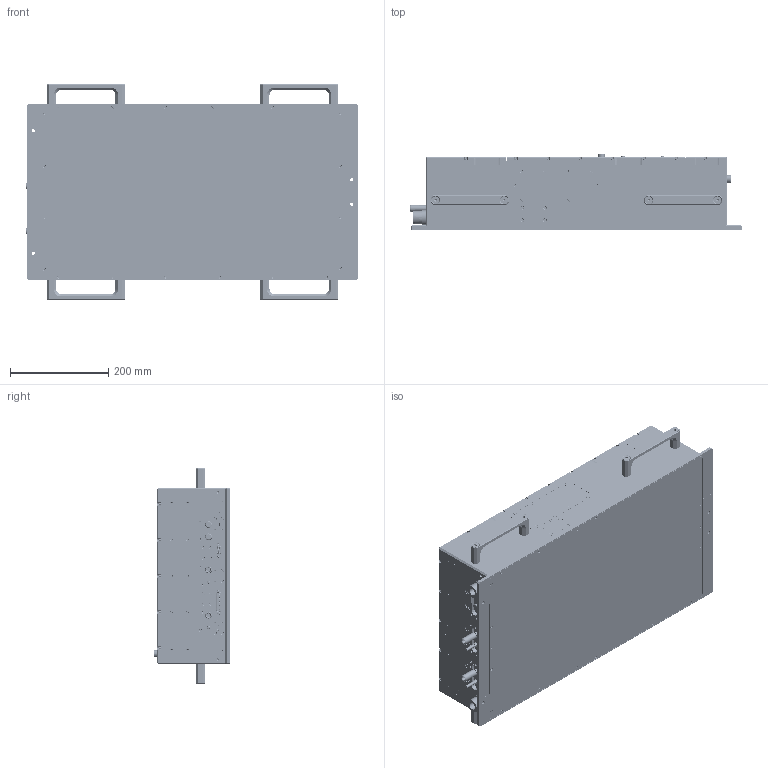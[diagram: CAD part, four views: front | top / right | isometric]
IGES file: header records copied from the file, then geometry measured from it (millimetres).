
Global section: file name: EW-006926.iam_; native system: Autodesk Inventor 2022; preprocessor: unknown; author: C.Hintzen; date: 20240213.130008; units: millimetre
Bounding box: 677 x 155.5 x 440 mm (x, y, z)
Volume: 33194526.8 mm3; surface area: 2158516.2 mm2
Topology: 230 solids, 291 shells, 11575 faces, 32294 edges, 21635 vertices
Faces by surface type: bspline 11575
